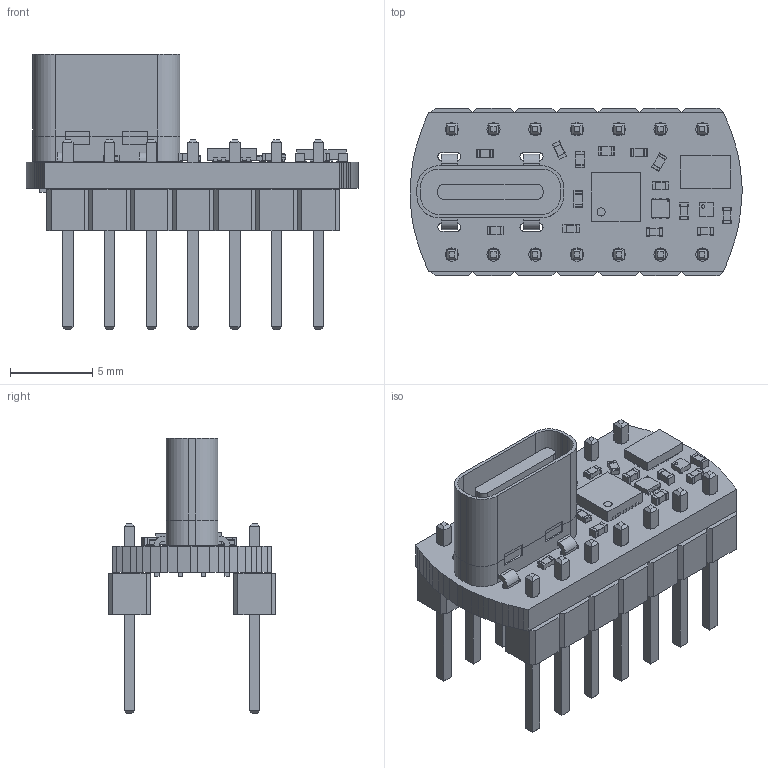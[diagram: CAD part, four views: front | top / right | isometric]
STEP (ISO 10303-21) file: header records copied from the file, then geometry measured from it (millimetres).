
FILE_DESCRIPTION(('KiCad electronic assembly'),'2;1');
FILE_NAME('Vlogi_v1.01.step','2022-03-23T10:02:13',('An Author'),( 'A Company'),'Open CASCADE STEP processor 7.5', 'KiCad to STEP converter','Unknown');
FILE_SCHEMA(('AUTOMOTIVE_DESIGN { 1 0 10303 214 1 1 1 1 }'));
Length unit declared in the file: millimetre
Products named in the file (18): Open CASCADE STEP translator 7.5 1; PinHeader_1x07_P2.54mm_Vertical; SOLID; DFN-10-1EP_3x3mm_P0.5mm_EP1.55x2.48mm; C_0402_1005Metric; Korean Hroparts Elec TYPE-C-31-D-09 v1; COMPOUND; R_0402_1005Metric; DFN-6-1EP_1.2x1.2mm_P0.4mm_EP0.3x0.94mm_PullBack; SLG46826V; WLP-4_0.83x0.83mm_P0.4mm
Assembly tree (30 placements, depth 3):
  Open CASCADE STEP translator 7.5 1
    PinHeader_1x07_P2.54mm_Vertical  x2
      SOLID
    DFN-10-1EP_3x3mm_P0.5mm_EP1.55x2.48mm
      SOLID
    C_0402_1005Metric  x7
      SOLID
    Korean Hroparts Elec TYPE-C-31-D-09 v1
      COMPOUND
    R_0402_1005Metric  x7
      SOLID
    DFN-6-1EP_1.2x1.2mm_P0.4mm_EP0.3x0.94mm_PullBack
      SOLID
    SLG46826V
      COMPOUND
    WLP-4_0.83x0.83mm_P0.4mm
      SOLID
    COMPOUND
Bounding box: 20.19 x 10.16 x 16.74 mm (x, y, z)
Volume: 673.8 mm3; surface area: 1899.3 mm2
Topology: 64 solids, 64 shells, 1288 faces, 3187 edges, 2078 vertices
Faces by surface type: plane 1069, cylinder 215, sphere 4
Full cylindrical faces by diameter (mm): 0.1 x1, 0.2 x1, 0.5 x1, 0.6 x16, 0.8 x14
Entity records: 51570 total; most frequent: CARTESIAN_POINT 8504, DIRECTION 7564, LINE 5391, VECTOR 5391, ORIENTED_EDGE 3862, PCURVE 3862, DEFINITIONAL_REPRESENTATION 3862, EDGE_CURVE 1931
